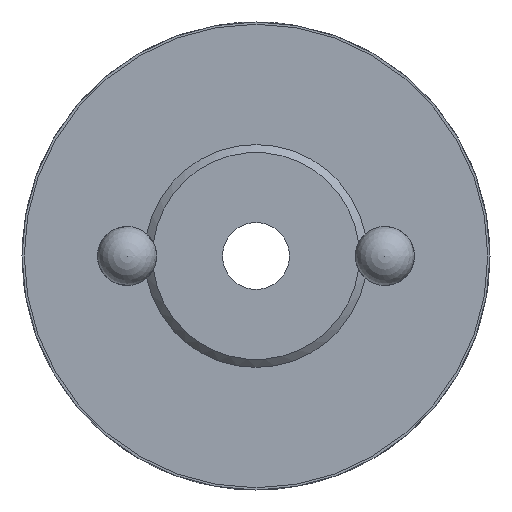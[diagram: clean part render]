
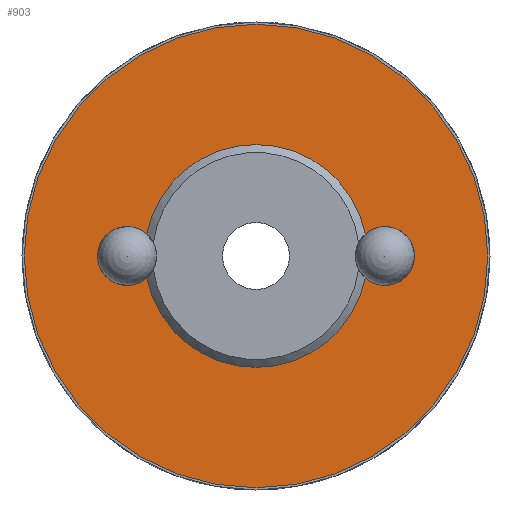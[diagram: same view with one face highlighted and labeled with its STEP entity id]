
A CAD part, left-side view. The second image highlights one B-rep face of the part: STEP entity #903.
In plain terms, the highlighted planar face has unit normal (-1, 0, 0).
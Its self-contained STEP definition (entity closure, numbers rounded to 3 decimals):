
#43=PLANE('',#988);
#123=CIRCLE('',#984,5.);
#124=CIRCLE('',#986,10.4);
#126=CIRCLE('',#989,5.);
#127=CIRCLE('',#990,1.33);
#128=CIRCLE('',#991,1.33);
#226=ORIENTED_EDGE('',*,*,#464,.F.);
#227=ORIENTED_EDGE('',*,*,#465,.T.);
#228=ORIENTED_EDGE('',*,*,#453,.F.);
#229=ORIENTED_EDGE('',*,*,#466,.T.);
#230=ORIENTED_EDGE('',*,*,#462,.T.);
#453=EDGE_CURVE('',#577,#578,#123,.T.);
#462=EDGE_CURVE('',#586,#586,#124,.T.);
#464=EDGE_CURVE('',#588,#589,#126,.T.);
#465=EDGE_CURVE('',#588,#578,#127,.T.);
#466=EDGE_CURVE('',#577,#589,#128,.T.);
#577=VERTEX_POINT('',#1372);
#578=VERTEX_POINT('',#1374);
#586=VERTEX_POINT('',#1404);
#588=VERTEX_POINT('',#1409);
#589=VERTEX_POINT('',#1410);
#731=EDGE_LOOP('',(#226,#227,#228,#229));
#732=EDGE_LOOP('',(#230));
#811=FACE_BOUND('',#731,.T.);
#812=FACE_BOUND('',#732,.T.);
#903=ADVANCED_FACE('',(#811,#812),#43,.F.);
#984=AXIS2_PLACEMENT_3D('',#1373,#1108,#1109);
#986=AXIS2_PLACEMENT_3D('',#1403,#1116,#1117);
#988=AXIS2_PLACEMENT_3D('',#1407,#1120,#1121);
#989=AXIS2_PLACEMENT_3D('',#1408,#1122,#1123);
#990=AXIS2_PLACEMENT_3D('',#1411,#1124,#1125);
#991=AXIS2_PLACEMENT_3D('',#1412,#1126,#1127);
#1108=DIRECTION('',(-1.,0.,0.));
#1109=DIRECTION('',(0.,0.,1.));
#1116=DIRECTION('',(-1.,0.,0.));
#1117=DIRECTION('',(0.,0.,1.));
#1120=DIRECTION('',(1.,0.,0.));
#1121=DIRECTION('',(0.,0.,-1.));
#1122=DIRECTION('',(-1.,0.,0.));
#1123=DIRECTION('',(0.,0.,1.));
#1124=DIRECTION('',(1.,0.,0.));
#1125=DIRECTION('',(0.,-1.,0.));
#1126=DIRECTION('',(1.,0.,0.));
#1127=DIRECTION('',(0.,1.,0.));
#1372=CARTESIAN_POINT('',(-16.5,-4.9,0.993));
#1373=CARTESIAN_POINT('',(-16.5,0.,0.));
#1374=CARTESIAN_POINT('',(-16.5,4.9,0.993));
#1403=CARTESIAN_POINT('',(-16.5,0.,0.));
#1404=CARTESIAN_POINT('',(-16.5,0.,10.4));
#1407=CARTESIAN_POINT('',(-16.5,10.4,0.));
#1408=CARTESIAN_POINT('',(-16.5,0.,0.));
#1409=CARTESIAN_POINT('',(-16.5,4.9,-0.993));
#1410=CARTESIAN_POINT('',(-16.5,-4.9,-0.993));
#1411=CARTESIAN_POINT('',(-16.5,5.785,0.));
#1412=CARTESIAN_POINT('',(-16.5,-5.785,0.));
